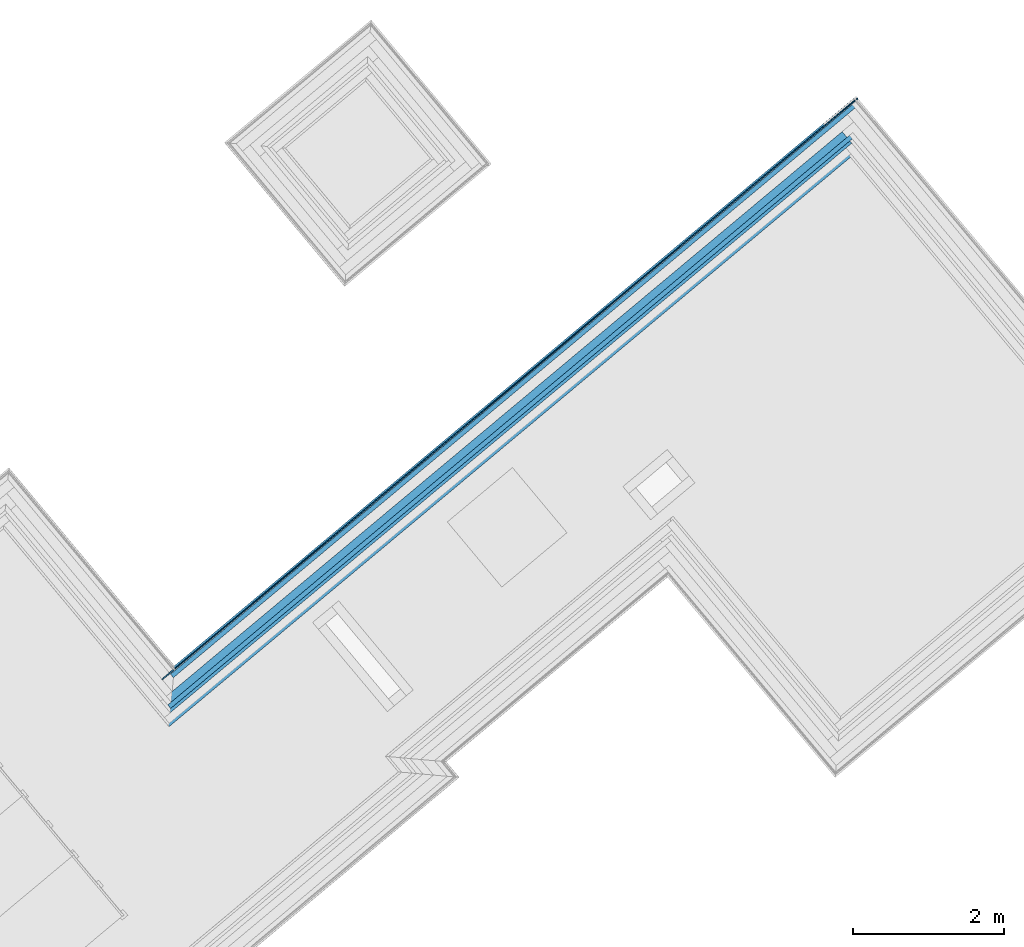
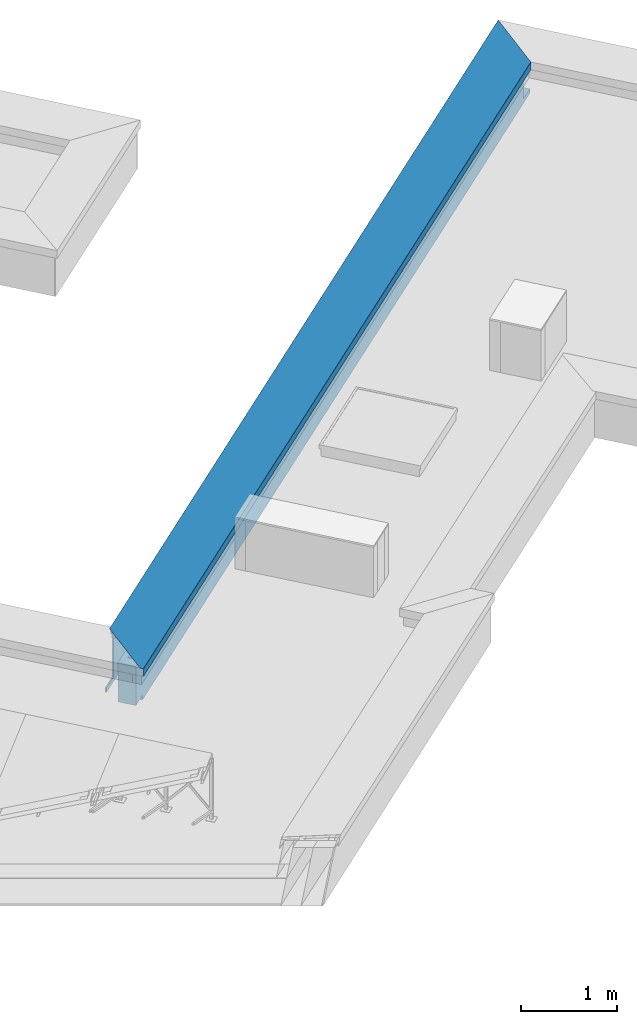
# One storey, part 6 of 13: 5 building element parts, 1 element without a shape of its own.
"""IFC4 building model written with IfcOpenShell, lengths in metres."""

import ifcopenshell
import ifcopenshell.guid

model = None  # the IFC model being written
_history = None  # IfcOwnerHistory: only IFC2X3 demands one
_inside = {}  # id of a spatial element -> (the spatial element, [elements in it])
_under = {}  # id of a project, library or spatial element -> (it, [spatial elements below it])
_declared = {}  # id of a project -> (the project, [libraries it declares])
_typed = {}  # id of a type object -> (the type object, [elements of that type])
_made_of = {}  # id of a material, layer set ... -> (it, [elements and type objects made of it])


def new_model(schema):
    """Start an empty IFC model of exactly this schema.

    Asked for "IFC4X3", IfcOpenShell would pick the latest addendum, in which some entities
    have other attributes; the version numbers below select the first issue.
    IFC2X3 requires an IfcOwnerHistory on every rooted entity: one is made here for all.
    """
    global model, _history
    if schema == "IFC4X3":
        model = ifcopenshell.file(schema_version=(4, 3, 0, 0))
    else:
        model = ifcopenshell.file(schema=schema)
    _inside.clear()
    _under.clear()
    _declared.clear()
    _typed.clear()
    _made_of.clear()
    _history = None
    if model.schema == "IFC2X3":
        org = make("IfcOrganization", Name="unknown")
        user = make(
            "IfcPersonAndOrganization",
            ThePerson=make("IfcPerson", FamilyName="unknown"),
            TheOrganization=org,
        )
        app = make(
            "IfcApplication",
            ApplicationDeveloper=org,
            Version="unknown",
            ApplicationFullName="unknown",
            ApplicationIdentifier="unknown",
        )
        _history = make(
            "IfcOwnerHistory",
            OwningUser=user,
            OwningApplication=app,
            ChangeAction="ADDED",
            CreationDate=0,
        )
    return model


def make(cls, **values):
    """One entity of the class cls with the attributes given. An attribute that is None is left unset."""
    return model.create_entity(
        cls, **{name: value for name, value in values.items() if value is not None}
    )


def entity(cls, *values):
    """Any entity or typed value of the class cls, its attributes in the order of the schema. None: left unset."""
    e = model.create_entity(cls)
    for i, value in enumerate(values):
        if value is not None:
            e[i] = value
    return e


def rooted(cls, **values):
    """An entity with a GlobalId (a new one), such as an element, a storey or a relation."""
    return make(cls, GlobalId=ifcopenshell.guid.new(), OwnerHistory=_history, **values)


def si_unit(unit_type, name, prefix=None):
    """IfcSIUnit, for example si_unit("LENGTHUNIT", "METRE", prefix="MILLI")."""
    return make("IfcSIUnit", UnitType=unit_type, Prefix=prefix, Name=name)


def converted_unit(unit_type, name, factor, base, dimensions=None, offset=None):
    """IfcConversionBasedUnit, such as the inch: factor (a typed value) times the base unit."""
    return make(
        "IfcConversionBasedUnit"
        if offset is None
        else "IfcConversionBasedUnitWithOffset",
        ConversionOffset=offset,
        Dimensions=None
        if dimensions is None
        else entity("IfcDimensionalExponents", *dimensions),
        UnitType=unit_type,
        Name=name,
        ConversionFactor=make(
            "IfcMeasureWithUnit", ValueComponent=factor, UnitComponent=base
        ),
    )


def derived_unit(unit_type, elements):
    """IfcDerivedUnit: a product of units, each with its exponent."""
    return make(
        "IfcDerivedUnit",
        Elements=[
            make("IfcDerivedUnitElement", Unit=unit, Exponent=power)
            for unit, power in elements
        ],
        UnitType=unit_type,
    )


def assignment(units):
    """IfcUnitAssignment: the units of a project."""
    return None if units is None else make("IfcUnitAssignment", Units=units)


def point(xyz):
    """IfcCartesianPoint."""
    return None if xyz is None else make("IfcCartesianPoint", Coordinates=xyz)


def direction(xyz):
    """IfcDirection."""
    return None if xyz is None else make("IfcDirection", DirectionRatios=xyz)


def frame(location, z_axis=None, x_axis=None):
    """IfcAxis2Placement3D, a coordinate frame: its origin and axes. An axis left out is left unset."""
    return make(
        "IfcAxis2Placement3D",
        Location=point(location),
        Axis=direction(z_axis),
        RefDirection=direction(x_axis),
    )


def origin_with_axes():
    """The frame at (0, 0, 0) with the z axis (0, 0, 1) and the x axis (1, 0, 0) written out."""
    return frame((0.0, 0.0, 0.0), z_axis=(0.0, 0.0, 1.0), x_axis=(1.0, 0.0, 0.0))


def place(relative_to, where):
    """IfcLocalPlacement: puts the frame where relative to a parent placement (None: the world)."""
    return make(
        "IfcLocalPlacement", PlacementRelTo=relative_to, RelativePlacement=where
    )


def context(
    kind, dimensions, precision=None, world=None, true_north=None, identifier=None
):
    """IfcGeometricRepresentationContext, for example the 3D "Model" context."""
    return make(
        "IfcGeometricRepresentationContext",
        ContextIdentifier=identifier,
        ContextType=kind,
        CoordinateSpaceDimension=dimensions,
        Precision=precision,
        WorldCoordinateSystem=world,
        TrueNorth=true_north,
    )


def subcontext(parent, identifier, kind, view, scale=None):
    """IfcGeometricRepresentationSubContext, for example "Body" below "Model"."""
    return make(
        "IfcGeometricRepresentationSubContext",
        ContextIdentifier=identifier,
        ContextType=kind,
        ParentContext=parent,
        TargetScale=scale,
        TargetView=view,
    )


def project(units=None, contexts=None):
    """IfcProject with its units and contexts."""
    return rooted(
        "IfcProject",
        Name="project",
        RepresentationContexts=contexts,
        UnitsInContext=assignment(units),
    )


def spatial(cls, under=None, at=None, **own):
    """A site, building, storey or space (cls), placed at a placement, below another one or the project."""
    s = rooted(cls, ObjectPlacement=at, **own)
    if under is not None:
        _under.setdefault(under.id(), (under, []))[1].append(s)
    return s


def point_list(points):
    """IfcCartesianPointList2D or 3D."""
    cls = (
        "IfcCartesianPointList2D" if len(points[0]) == 2 else "IfcCartesianPointList3D"
    )
    return make(cls, CoordList=points)


def polygons(points, faces, closed=None, point_numbers=None):
    """IfcPolygonalFaceSet: a face is its outer loop, then its inner loops; points numbered from 1."""
    made = []
    for loops in faces:
        if len(loops) == 1:
            made.append(make("IfcIndexedPolygonalFace", CoordIndex=loops[0]))
        else:
            made.append(
                make(
                    "IfcIndexedPolygonalFaceWithVoids",
                    CoordIndex=loops[0],
                    InnerCoordIndices=loops[1:],
                )
            )
    return make(
        "IfcPolygonalFaceSet",
        Coordinates=point_list(points),
        Closed=closed,
        Faces=made,
        PnIndex=point_numbers,
    )


def shape(context_of_items, identifier, shape_type, items):
    """IfcShapeRepresentation: the items that make up one representation, for example the "Body"."""
    return make(
        "IfcShapeRepresentation",
        ContextOfItems=context_of_items,
        RepresentationIdentifier=identifier,
        RepresentationType=shape_type,
        Items=items,
    )


def material(Name=None, Category=None):
    """IfcMaterial."""
    return make("IfcMaterial", Name=Name, Category=Category)


def made_of(thing, what):
    """Note that an element or type object is made of a material, layer set ...; save() writes the relation."""
    if what is not None:
        _made_of.setdefault(what.id(), (what, []))[1].append(thing)
    return thing


def type_object(cls, material=None, **own):
    """A type object (cls), such as IfcWallType, which elements share."""
    return made_of(rooted(cls, **own), material)


def element(
    cls,
    number,
    at=None,
    inside=None,
    cuts=None,
    type_object=None,
    material=None,
    context=None,
    identifier="Body",
    shape_type=None,
    held_by="IfcProductDefinitionShape",
    body=None,
    shapes=None,
    **own,
):
    """One element of the class cls, such as IfcWall. Its Tag is "e" and its number.

    at: its placement. inside: the storey or other place that contains it. cuts: it is an
    opening in that element (IfcRelVoidsElement). A single representation is given by context,
    identifier, shape_type and body (its items); several are given by shapes. held_by: the class
    of the entity that holds the representations. save() writes the other relations.
    """
    e = rooted(cls, Tag="e%d" % number, ObjectPlacement=at, **own)
    if body is not None:
        shapes = [shape(context, identifier, shape_type, body)]
    if shapes is not None:
        e.Representation = make(held_by, Representations=shapes)
    if inside is not None:
        _inside.setdefault(inside.id(), (inside, []))[1].append(e)
    if cuts is not None:
        rooted(
            "IfcRelVoidsElement", RelatingBuildingElement=cuts, RelatedOpeningElement=e
        )
    if type_object is not None:
        _typed.setdefault(type_object.id(), (type_object, []))[1].append(e)
    return made_of(e, material)


def aggregate(whole, parts):
    """IfcRelAggregates: a whole, such as a stair, and the parts it consists of."""
    return rooted("IfcRelAggregates", RelatingObject=whole, RelatedObjects=parts)


def save(model, path):
    """Write the relations noted so far, then the file.

    IfcRelAggregates (storeys below a building ...), IfcRelContainedInSpatialStructure (elements
    in a storey), IfcRelDefinesByType, IfcRelAssociatesMaterial and IfcRelDeclares: one each for
    every whole, place, type object, material and project.
    """
    for whole, parts in _under.values():
        aggregate(whole, parts)
    for where, things in _inside.values():
        rooted(
            "IfcRelContainedInSpatialStructure",
            RelatedElements=things,
            RelatingStructure=where,
        )
    for kind, things in _typed.values():
        rooted("IfcRelDefinesByType", RelatedObjects=things, RelatingType=kind)
    for what, things in _made_of.values():
        rooted("IfcRelAssociatesMaterial", RelatedObjects=things, RelatingMaterial=what)
    for by, libraries in _declared.values():
        rooted("IfcRelDeclares", RelatingContext=by, RelatedDefinitions=libraries)
    model.write(path)


model = new_model("IFC4")

# Units and contexts
model_context = context("Model", 3, precision=1e-05, world=origin_with_axes(), true_north=direction((0.0, 1.0)))
body_context = subcontext(model_context, "Body", "Model", "MODEL_VIEW")
ifc_project = project(units=[si_unit("LENGTHUNIT", "METRE"), si_unit("AREAUNIT", "SQUARE_METRE"), si_unit("VOLUMEUNIT", "CUBIC_METRE"), converted_unit("PLANEANGLEUNIT", "DEGREE", entity("IfcPlaneAngleMeasure", 0.0174532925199), si_unit("PLANEANGLEUNIT", "RADIAN"), dimensions=[0, 0, 0, 0, 0, 0, 0]), converted_unit("TIMEUNIT", "Year", entity("IfcTimeMeasure", 31556926.0), si_unit("TIMEUNIT", "SECOND"), dimensions=[0, 0, 1, 0, 0, 0, 0]), si_unit("MASSUNIT", "GRAM", prefix="KILO"), si_unit("THERMODYNAMICTEMPERATUREUNIT", "DEGREE_CELSIUS"), si_unit("LUMINOUSINTENSITYUNIT", "LUMEN"), si_unit("ENERGYUNIT", "JOULE", prefix="MEGA"), derived_unit("THERMALCONDUCTANCEUNIT", [(si_unit("POWERUNIT", "WATT"), 1), (si_unit("LENGTHUNIT", "METRE"), -1), (si_unit("THERMODYNAMICTEMPERATUREUNIT", "KELVIN"), -1)]), derived_unit("SPECIFICHEATCAPACITYUNIT", [(si_unit("ENERGYUNIT", "JOULE"), 1), (si_unit("MASSUNIT", "GRAM", prefix="KILO"), -1), (si_unit("THERMODYNAMICTEMPERATUREUNIT", "KELVIN"), -1)]), derived_unit("MASSDENSITYUNIT", [(si_unit("MASSUNIT", "GRAM", prefix="KILO"), 1), (si_unit("VOLUMEUNIT", "CUBIC_METRE"), -1)])], contexts=[model_context])

# Site, building, storey
site_placement = place(None, frame((-0.00153261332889, -0.00661245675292, 0.0), z_axis=(0.0, 0.0, 1.0), x_axis=(1.0, 0.0, 0.0)))
site = spatial("IfcSite", under=ifc_project, at=site_placement, Name="Gelände", CompositionType="ELEMENT")
building_placement = place(site_placement, origin_with_axes())
building = spatial("IfcBuilding", under=site, at=building_placement, Name="Gebäude", CompositionType="ELEMENT")
storey_placement = place(building_placement, frame((0.0, 0.0, 11.84), z_axis=(0.0, 0.0, 1.0), x_axis=(1.0, 0.0, 0.0)))
storey = spatial("IfcBuildingStorey", under=building, at=storey_placement, Name="DA", CompositionType="ELEMENT", Elevation=11.84)

# Wall, building element parts
wall_type = type_object("IfcWallType", Name="Bauteil - Attika Stehfalz 574 x 670", PredefinedType="NOTDEFINED")
wall_placement = place(storey_placement, frame((-0.976428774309, 18.8021580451, 0.0), z_axis=(0.0, 0.0, 1.0), x_axis=(0.767365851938, 0.641209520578, 0.0)))
wall = element("IfcWall", 1, at=wall_placement, inside=storey, type_object=wall_type, Name="Wand-004", PredefinedType="NOTDEFINED")
ifc_material_1 = material(Name="Stehfalz")
building_element_part_1_placement = place(wall_placement, origin_with_axes())
building_element_part_1 = element("IfcBuildingElementPart", 2, at=building_element_part_1_placement, material=ifc_material_1, Name="Stehfalz", PredefinedType="NOTDEFINED", context=body_context, shape_type="Tessellation", body=[
    polygons([(0.0, 0.199999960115, -2.38708075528e-09), (0.0, 0.214999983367, -2.38708075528e-09), (0.0, 0.214999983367, -0.06), (0.0, 0.199999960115, -0.06), (0.19999996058, 0.214999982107, 0.0), (0.19999996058, 0.199999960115, 0.0), (5.43008096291, 0.214999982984, -0.06), (0.214999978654, 0.214999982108, 0.0), (0.214999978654, 0.21499998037, 0.235000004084), (0.214999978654, 0.214999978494, 0.488695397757), (0.214999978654, 0.214999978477, 0.491006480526), (0.214999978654, 0.214999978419, 0.498822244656), (0.214999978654, 0.214999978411, 0.5), (0.214999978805, 0.214999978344, 0.509050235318), (0.214999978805, 0.214999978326, 0.51136132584), (0.214999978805, 0.214999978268, 0.519224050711), (0.214999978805, 0.214999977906, 0.55999999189), (12.002251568, 0.214999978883, 0.55999999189), (12.0022489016, 0.214999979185, 0.519224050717), (11.9943856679, 0.214999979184, 0.51922405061), (11.9934753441, 0.214999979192, 0.518219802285), (12.000333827, 0.214999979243, 0.511361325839), (12.0026449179, 0.214999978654, 0.509050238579), (11.9771019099, 0.214999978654, 0.509050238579), (11.9771019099, 0.214999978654, 0.50000001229), (11.962101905, 0.214999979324, 0.5), (11.962101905, 0.214999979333, 0.498822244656), (11.962101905, 0.214999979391, 0.491006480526), (11.962101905, 0.214999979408, 0.488695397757), (11.962101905, 0.214999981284, 0.235000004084), (11.962101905, 0.214999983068, 0.0), (11.7621019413, 0.214999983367, -2.38708075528e-09), (11.7621019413, 0.214999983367, -0.06), (7.69580420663, 0.214999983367, -0.06), (7.69580420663, 0.214999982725, -0.00130460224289), (7.69580420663, 0.214999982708, 0.00100648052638), (7.69580420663, 0.214999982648, 0.00882224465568), (7.69580420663, 0.214999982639, 0.01), (7.69580420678, 0.214999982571, 0.0190502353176), (7.72134721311, 0.214999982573, 0.0190502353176), (7.72230448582, 0.214999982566, 0.0200075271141), (7.722304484, 0.214999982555, 0.0213613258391), (7.722304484, 0.214999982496, 0.0292240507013), (7.722304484, 0.214999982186, 0.0699999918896), (7.722304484, 0.214999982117, 0.0779479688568), (7.722304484, 0.214999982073, 0.0838806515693), (7.722304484, 0.214999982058, 0.0859797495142), (7.722304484, 0.214999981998, 0.0940158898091), (7.722304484, 0.214999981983, 0.0961062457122), (7.722304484, 0.214999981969, 0.0979374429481), (7.722304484, 0.214999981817, 0.118570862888), (7.722304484, 0.214999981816, 0.118602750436), (7.722304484, 0.214999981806, 0.120006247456), (7.68353486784, 0.214999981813, 0.11860275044), (7.68265402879, 0.214999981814, 0.118570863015), (7.14875228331, 0.214999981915, 0.0992431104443), (7.14875228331, 0.214999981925, 0.0979374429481), (7.14875228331, 0.214999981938, 0.0961062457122), (7.14875228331, 0.214999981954, 0.0940158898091), (7.14875228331, 0.214999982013, 0.0859797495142), (7.14875228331, 0.214999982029, 0.0838806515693), (7.14875228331, 0.214999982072, 0.0779479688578), (7.14875228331, 0.214999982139, 0.0699999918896), (7.14875228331, 0.214999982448, 0.0292240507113), (7.14875228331, 0.214999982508, 0.0213613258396), (7.14875228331, 0.214999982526, 0.0190502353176), (7.14875228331, 0.214999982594, 0.00999999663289), (7.14875228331, 0.214999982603, 0.00882224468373), (7.14875228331, 0.214999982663, 0.00100648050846), (7.14875228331, 0.214999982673, -0.00034732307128), (7.14970957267, 0.21499998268, -0.00130459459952), (7.18080417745, 0.214999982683, -0.00130460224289), (7.18080417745, 0.214999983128, -0.06), (5.63008098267, 0.214999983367, -0.06), (5.63008098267, 0.214999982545, 0.0), (5.43008096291, 0.214999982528, 0.0), (5.43007429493, 0.199999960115, -0.06), (5.43007429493, 0.199999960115, 0.0), (5.63007431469, 0.199999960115, 0.0), (5.63007431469, 0.199999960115, -0.06), (7.18079765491, 0.199999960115, -0.06), (7.18079765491, 0.199999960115, -0.00130460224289), (7.14970305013, 0.199999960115, -0.00130459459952), (7.14874576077, 0.199999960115, -0.00034732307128), (7.14874576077, 0.199999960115, 0.00100648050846), (7.14874576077, 0.199999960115, 0.00882224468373), (7.14874576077, 0.199999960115, 0.00999999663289), (7.14874576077, 0.199999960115, 0.0190502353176), (7.14874576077, 0.199999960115, 0.0213613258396), (7.14874576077, 0.199999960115, 0.0292240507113), (7.14874576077, 0.199999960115, 0.0699999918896), (7.14874576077, 0.199999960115, 0.0779479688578), (7.14874576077, 0.199999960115, 0.0838806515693), (7.14874576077, 0.199999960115, 0.0859797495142), (7.14874576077, 0.199999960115, 0.0940158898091), (7.14874576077, 0.199999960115, 0.0961062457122), (7.14874576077, 0.199999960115, 0.0979374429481), (7.14874576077, 0.199999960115, 0.0992431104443), (7.68264750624, 0.199999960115, 0.118570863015), (7.68352834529, 0.199999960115, 0.11860275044), (7.72229796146, 0.199999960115, 0.120006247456), (7.72229796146, 0.199999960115, 0.118602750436), (7.72229796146, 0.199999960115, 0.118570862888), (7.72229796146, 0.199999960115, 0.0979374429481), (7.72229796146, 0.199999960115, 0.0961062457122), (7.72229796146, 0.199999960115, 0.0940158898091), (7.72229796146, 0.199999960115, 0.0859797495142), (7.72229796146, 0.199999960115, 0.0838806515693), (7.72229796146, 0.199999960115, 0.0779479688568), (7.72229796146, 0.199999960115, 0.0699999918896), (7.72229796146, 0.199999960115, 0.0292240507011), (7.72229796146, 0.199999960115, 0.0213613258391), (7.72229796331, 0.199999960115, 0.0200075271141), (7.72134069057, 0.199999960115, 0.0190502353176), (7.69579768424, 0.199999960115, 0.0190502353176), (7.69579768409, 0.199999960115, 0.01), (7.69579768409, 0.199999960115, 0.00882224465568), (7.69579768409, 0.199999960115, 0.00100648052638), (7.69579768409, 0.199999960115, -0.00130460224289), (7.69579768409, 0.199999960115, -0.06), (11.7621019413, 0.199999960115, -0.06), (11.7621019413, 0.199999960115, -2.38708075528e-09), (11.962101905, 0.199999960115, 0.0), (11.962101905, 0.199999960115, 0.235000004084), (11.962101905, 0.199999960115, 0.488695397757), (11.962101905, 0.199999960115, 0.491006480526), (11.962101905, 0.199999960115, 0.498822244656), (11.962101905, 0.199999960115, 0.5), (11.9771019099, 0.199999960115, 0.50000001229), (11.9771019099, 0.199999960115, 0.509050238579), (12.0026449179, 0.199999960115, 0.509050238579), (12.000333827, 0.199999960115, 0.511361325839), (11.9934753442, 0.199999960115, 0.518219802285), (11.9943856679, 0.199999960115, 0.51922405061), (12.0022489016, 0.199999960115, 0.519224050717), (12.002251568, 0.199999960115, 0.55999999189), (0.214999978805, 0.199999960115, 0.55999999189), (0.214999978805, 0.199999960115, 0.519224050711), (0.214999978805, 0.199999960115, 0.51136132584), (0.214999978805, 0.199999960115, 0.509050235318), (0.214999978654, 0.199999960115, 0.5), (0.214999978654, 0.199999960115, 0.498822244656), (0.214999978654, 0.199999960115, 0.491006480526), (0.214999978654, 0.199999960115, 0.488695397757), (0.214999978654, 0.199999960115, 0.235000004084), (0.214999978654, 0.199999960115, 0.0)], [[[1, 2, 3, 4]], [[5, 2, 1, 6]], [[7, 3, 2, 5, 8, 9, 10, 11, 12, 13, 14, 15, 16, 17, 18, 19, 20, 21, 22, 23, 24, 25, 26, 27, 28, 29, 30, 31, 32, 33, 34, 35, 36, 37, 38, 39, 40, 41, 42, 43, 44, 45, 46, 47, 48, 49, 50, 51, 52, 53, 54, 55, 56, 57, 58, 59, 60, 61, 62, 63, 64, 65, 66, 67, 68, 69, 70, 71, 72, 73, 74, 75, 76]], [[77, 4, 3, 7]], [[6, 1, 4, 77, 78, 79, 80, 81, 82, 83, 84, 85, 86, 87, 88, 89, 90, 91, 92, 93, 94, 95, 96, 97, 98, 99, 100, 101, 102, 103, 104, 105, 106, 107, 108, 109, 110, 111, 112, 113, 114, 115, 116, 117, 118, 119, 120, 121, 122, 123, 124, 125, 126, 127, 128, 129, 130, 131, 132, 133, 134, 135, 136, 137, 138, 139, 140, 141, 142, 143, 144, 145, 146]], [[5, 6, 146, 8]], [[8, 146, 145, 9]], [[9, 145, 144, 10]], [[10, 144, 143, 11]], [[11, 143, 142, 12]], [[12, 142, 141, 13]], [[13, 141, 140, 14]], [[14, 140, 139, 15]], [[15, 139, 138, 16]], [[16, 138, 137, 17]], [[18, 17, 137, 136]], [[136, 135, 19, 18]], [[134, 20, 19, 135]], [[20, 134, 133, 21]], [[21, 133, 132, 22]], [[131, 23, 22, 132]], [[131, 130, 24, 23]], [[130, 129, 25, 24]], [[129, 128, 26, 25]], [[128, 127, 27, 26]], [[27, 127, 126, 28]], [[28, 126, 125, 29]], [[29, 125, 124, 30]], [[124, 123, 31, 30]], [[123, 122, 32, 31]], [[32, 122, 121, 33]], [[121, 120, 34, 33]], [[35, 34, 120, 119]], [[36, 35, 119, 118]], [[37, 36, 118, 117]], [[117, 116, 38, 37]], [[39, 38, 116, 115]], [[40, 39, 115, 114]], [[40, 114, 113, 41]], [[41, 113, 112, 42]], [[42, 112, 111, 43]], [[43, 111, 110, 44]], [[109, 45, 44, 110]], [[108, 46, 45, 109]], [[107, 47, 46, 108]], [[106, 48, 47, 107]], [[105, 49, 48, 106]], [[104, 50, 49, 105]], [[103, 51, 50, 104]], [[102, 52, 51, 103]], [[101, 53, 52, 102]], [[101, 100, 54, 53]], [[100, 99, 55, 54]], [[99, 98, 56, 55]], [[97, 57, 56, 98]], [[96, 58, 57, 97]], [[95, 59, 58, 96]], [[94, 60, 59, 95]], [[93, 61, 60, 94]], [[92, 62, 61, 93]], [[91, 63, 62, 92]], [[90, 64, 63, 91]], [[89, 65, 64, 90]], [[88, 66, 65, 89]], [[87, 67, 66, 88]], [[86, 68, 67, 87]], [[85, 69, 68, 86]], [[84, 70, 69, 85]], [[71, 70, 84, 83]], [[72, 71, 83, 82]], [[81, 73, 72, 82]], [[81, 80, 74, 73]], [[79, 75, 74, 80]], [[79, 78, 76, 75]], [[78, 77, 7, 76]]], closed=True),
])
ifc_material_2 = material(Name="Vollholz")
building_element_part_2_placement = place(wall_placement, origin_with_axes())
building_element_part_2 = element("IfcBuildingElementPart", 3, at=building_element_part_2_placement, material=ifc_material_2, Name="Vollholz", PredefinedType="NOTDEFINED", context=body_context, shape_type="Tessellation", body=[
    polygons([(0.130124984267, 0.130124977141, 0.575979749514), (0.130124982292, 0.130124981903, 0.584015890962), (0.130124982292, 0.189996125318, 0.584015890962), (0.130124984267, 0.190039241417, 0.575979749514), (0.130124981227, 0.130124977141, 0.567947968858), (0.130124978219, 0.130124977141, 0.560000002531), (11.8922269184, 0.130124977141, 0.560000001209), (11.8922269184, 0.130124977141, 0.567947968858), (11.8922269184, 0.130124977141, 0.573880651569), (11.8922269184, 0.130124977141, 0.575979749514), (11.8922269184, 0.130124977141, 0.584015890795), (0.130124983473, 0.130124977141, 0.573880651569), (0.18998490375, 0.189984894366, 0.586106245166), (11.9520871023, 0.189984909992, 0.586106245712), (11.8922269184, 0.189996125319, 0.584015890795), (11.8922269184, 0.190039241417, 0.575979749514), (11.8922269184, 0.190050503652, 0.573880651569), (11.8922269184, 0.190082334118, 0.567947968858), (11.8922269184, 0.190124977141, 0.560000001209), (0.130124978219, 0.190124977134, 0.560000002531), (0.130124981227, 0.190082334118, 0.567947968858), (0.130124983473, 0.190050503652, 0.573880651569)], [[[1, 2, 3, 4]], [[5, 6, 7, 8, 9, 10, 11, 2, 1, 12]], [[3, 2, 13]], [[4, 3, 13, 14, 15, 16, 17, 18, 19, 20, 21, 22]], [[12, 1, 4, 22]], [[6, 5, 21, 20]], [[6, 20, 19, 7]], [[7, 19, 18, 8]], [[9, 8, 18, 17]], [[10, 9, 17, 16]], [[16, 15, 11, 10]], [[2, 11, 14, 13]], [[5, 12, 22, 21]], [[11, 15, 14]]], closed=True),
])
building_element_part_3_placement = place(wall_placement, origin_with_axes())
building_element_part_3 = element("IfcBuildingElementPart", 4, at=building_element_part_3_placement, material=ifc_material_2, Name="Vollholz", PredefinedType="NOTDEFINED", context=body_context, shape_type="Tessellation", body=[
    polygons([(-0.160110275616, -0.1, 0.573880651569), (-0.0999999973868, -0.1, 0.575979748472), (11.6621019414, -0.1, 0.575979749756), (11.6019917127, -0.1, 0.573880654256), (11.6020388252, -0.1, 0.567947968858), (11.6021019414, -0.1, 0.560000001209), (-0.159999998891, -0.1, 0.560000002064), (-0.160063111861, -0.1, 0.567947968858), (-0.160110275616, -0.160110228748, 0.573880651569), (11.6019917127, -0.160110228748, 0.573880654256), (11.6020388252, -0.160063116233, 0.567947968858), (11.6021019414, -0.16, 0.560000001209), (-0.159999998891, -0.16, 0.560000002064), (-0.160063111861, -0.160063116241, 0.567947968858)], [[[1, 2, 3, 4, 5, 6, 7, 8]], [[9, 2, 1]], [[2, 9, 10, 3]], [[4, 3, 10]], [[4, 10, 11, 5]], [[5, 11, 12, 6]], [[13, 7, 6, 12]], [[14, 8, 7, 13]], [[9, 1, 8, 14]], [[9, 14, 13, 12, 11, 10]]], closed=True),
])
ifc_material_3 = material(Name="Stahlbeton Wand Garage")
building_element_part_4_placement = place(wall_placement, origin_with_axes())
building_element_part_4 = element("IfcBuildingElementPart", 5, at=building_element_part_4_placement, material=ifc_material_3, Name="Stahlbeton Wand Garage", PredefinedType="NOTDEFINED", context=body_context, shape_type="Tessellation", body=[
    polygons([(-0.200000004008, 0.0, 0.499999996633), (-0.200000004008, -0.2, 0.499999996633), (11.5621019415, -0.2, 0.5), (11.5621019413, 0.0, 0.5), (-0.200000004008, -0.20000000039, 0.498822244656), (-0.200000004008, 0.0, 0.498822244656), (-0.200000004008, -0.20000000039, 0.491006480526), (-0.200000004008, -0.20000000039, 0.488695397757), (-0.200000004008, -0.20000000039, 0.235000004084), (11.5621019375, -0.20000000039, 0.235000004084), (11.5621019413, -0.20000000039, 0.488695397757), (11.5621019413, -0.20000000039, 0.491006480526), (11.5621019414, -0.20000000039, 0.498822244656), (11.5621019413, 0.0, 0.498822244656), (11.5621019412, 0.0, 0.491006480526), (11.5621019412, 0.0, 0.488695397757), (11.5621019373, 0.0, 0.235000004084), (11.5621019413, 0.0, 0.0), (11.7621019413, 0.0, 0.0), (11.7621019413, 0.0, -0.06), (0.0, 0.0, -0.06), (0.0, 0.0, -2.38708075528e-09), (-0.200000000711, 0.0, -2.38708075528e-09), (-0.200000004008, 0.0, 0.235000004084), (-0.200000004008, 0.0, 0.488695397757), (-0.200000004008, 0.0, 0.491006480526), (11.5621019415, -0.200000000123, 0.0), (-0.200000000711, -0.200000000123, -2.38708075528e-09), (0.0, -0.200000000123, -2.38708075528e-09), (0.0, -0.200000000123, -0.06), (11.7621019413, -0.200000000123, -0.06), (11.7621019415, -0.200000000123, 0.0)], [[[1, 2, 3, 4]], [[5, 2, 1, 6]], [[2, 5, 7, 8, 9, 10, 11, 12, 13, 3]], [[4, 3, 13, 14]], [[6, 1, 4, 14, 15, 16, 17, 18, 19, 20, 21, 22, 23, 24, 25, 26]], [[5, 6, 26, 7]], [[7, 26, 25, 8]], [[8, 25, 24, 9]], [[27, 10, 9, 28, 29, 30, 31, 32]], [[16, 11, 10, 17]], [[15, 12, 11, 16]], [[14, 13, 12, 15]], [[17, 10, 27, 18]], [[27, 32, 19, 18]], [[19, 32, 31, 20]], [[21, 20, 31, 30]], [[21, 30, 29, 22]], [[22, 29, 28, 23]], [[9, 24, 23, 28]]], closed=True),
])
ifc_material_4 = material(Name="Stahl")
building_element_part_5_placement = place(wall_placement, origin_with_axes())
building_element_part_5 = element("IfcBuildingElementPart", 6, at=building_element_part_5_placement, material=ifc_material_4, Name="Stahl", PredefinedType="NOTDEFINED", context=body_context, shape_type="Tessellation", body=[
    polygons([(-0.332051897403, -0.332051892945, 0.489652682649), (-0.332051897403, -0.330137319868, 0.489652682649), (-0.33109461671, -0.331094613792, 0.488695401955), (-0.332051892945, -0.332051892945, 0.498822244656), (-0.332051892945, -0.330698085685, 0.498822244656), (-0.332051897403, -0.330698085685, 0.491006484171), (-0.332051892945, -0.328783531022, 0.491006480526), (-0.33069808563, -0.328783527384, 0.491006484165), (-0.323792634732, -0.321878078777, 0.497911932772), (11.4383093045, -0.321878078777, 0.497911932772), (11.4314038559, -0.328783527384, 0.491006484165), (11.4300500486, -0.328783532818, 0.491006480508), (11.4300500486, -0.330137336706, 0.489652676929), (11.4310073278, -0.331094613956, 0.488695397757), (11.4300500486, -0.332051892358, 0.489652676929), (11.4300500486, -0.332051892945, 0.491006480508), (11.4300500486, -0.332051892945, 0.498822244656), (11.4300500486, -0.332051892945, 0.499999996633), (11.4300500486, -0.332051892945, 0.509050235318), (11.4300500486, -0.332051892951, 0.511361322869), (11.4300500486, -0.33205189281, 0.519224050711), (11.4300500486, -0.332051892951, 0.559999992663), (11.4300500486, -0.332051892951, 0.567947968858), (11.4300500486, -0.332051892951, 0.573880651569), (11.4300500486, -0.332051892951, 0.575979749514), (11.4300500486, -0.332051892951, 0.584015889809), (11.4300500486, -0.332051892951, 0.586106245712), (11.4300500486, -0.332051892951, 0.587937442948), (11.4300500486, -0.332051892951, 0.589243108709), (-0.332051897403, -0.332051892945, 0.589243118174), (-0.332051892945, -0.332051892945, 0.499999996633), (-0.330698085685, -0.332051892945, 0.499999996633), (-0.330698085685, -0.332051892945, 0.498822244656), (-0.330698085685, -0.330698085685, 0.498822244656), (-0.33069808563, -0.330698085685, 0.491006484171), (-0.330698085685, -0.330698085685, 0.499999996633), (-0.332051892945, -0.330698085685, 0.499999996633), (-0.332051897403, -0.330698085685, 0.587937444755), (11.4300500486, -0.330698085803, 0.587937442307), (11.4300500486, -0.330698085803, 0.586106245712), (11.4300500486, -0.330698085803, 0.584015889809), (11.4300500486, -0.330698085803, 0.575979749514), (11.4300500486, -0.330698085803, 0.573880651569), (11.4300500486, -0.330698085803, 0.567947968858), (11.4300500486, -0.330698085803, 0.559999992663), (11.4300500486, -0.330698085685, 0.519224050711), (11.4300500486, -0.330698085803, 0.511361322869), (11.4300500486, -0.330698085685, 0.509050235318), (11.4300500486, -0.330698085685, 0.499999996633), (11.4300500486, -0.330698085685, 0.498822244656), (11.4300500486, -0.330698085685, 0.49100648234), (-0.322882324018, -0.32288233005, 0.498822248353), (11.4392196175, -0.32288233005, 0.498822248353), (11.4314038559, -0.330698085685, 0.491006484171), (11.4300500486, -0.294630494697, 0.589243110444), (0.241500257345, 0.241500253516, 0.610006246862), (11.9639517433, 0.201849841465, 0.608570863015), (11.9648325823, 0.202730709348, 0.608602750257), (12.0036021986, 0.241500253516, 0.610006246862), (-0.332051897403, -0.29463035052, 0.589243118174), (0.201849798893, 0.239276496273, 0.608570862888), (11.9639517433, 0.239276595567, 0.608570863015), (0.20273064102, 0.241500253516, 0.608602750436), (0.202730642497, 0.240152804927, 0.608602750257), (11.9648325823, 0.240152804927, 0.608602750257), (11.9648325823, 0.241500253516, 0.608602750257), (0.239585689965, 0.241500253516, 0.510007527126), (0.23823188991, 0.241500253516, 0.51136132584), (0.240146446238, 0.241500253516, 0.51136132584), (0.240146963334, 0.241500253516, 0.51922405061), (0.240149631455, 0.241500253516, 0.559999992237), (0.240150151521, 0.241500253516, 0.567947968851), (0.240150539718, 0.241500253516, 0.573880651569), (0.24015067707, 0.241500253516, 0.575979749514), (0.240151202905, 0.241500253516, 0.584015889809), (0.240151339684, 0.241500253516, 0.586106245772), (0.240151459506, 0.241500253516, 0.587937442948), (0.240152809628, 0.241500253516, 0.608570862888), (0.240152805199, 0.241500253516, 0.608602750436), (12.0022547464, 0.241500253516, 0.608602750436), (12.002254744, 0.241500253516, 0.608570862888), (12.0022533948, 0.241500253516, 0.587937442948), (12.0022532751, 0.241500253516, 0.586106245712), (12.0022531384, 0.241500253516, 0.584015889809), (12.0022526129, 0.241500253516, 0.575979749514), (12.0022524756, 0.241500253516, 0.573880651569), (12.0022520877, 0.241500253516, 0.567947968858), (12.002251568, 0.241500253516, 0.55999999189), (12.0022489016, 0.241500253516, 0.519224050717), (12.0022483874, 0.241500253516, 0.51136132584), (12.000333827, 0.241500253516, 0.511361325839), (12.001687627, 0.241500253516, 0.510007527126), (0.240152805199, 0.240152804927, 0.608602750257), (12.0022547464, 0.240152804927, 0.608602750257), (0.238231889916, 0.240146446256, 0.51136132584), (0.240542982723, 0.240542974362, 0.509050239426), (0.23823188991, 0.238231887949, 0.51136132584), (0.240146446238, 0.240146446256, 0.51136132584), (0.240146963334, 0.240146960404, 0.51922405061), (0.240149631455, 0.240149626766, 0.559999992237), (0.240150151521, 0.240150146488, 0.567947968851), (0.240150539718, 0.24015053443, 0.573880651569), (0.24015067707, 0.240150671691, 0.575979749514), (0.240151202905, 0.240151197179, 0.584015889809), (0.240151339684, 0.240151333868, 0.586106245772), (0.240151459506, 0.240151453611, 0.587937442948), (0.240152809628, 0.240152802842, 0.608570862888), (12.002254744, 0.240152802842, 0.608570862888), (12.0022533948, 0.240151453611, 0.587937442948), (12.0022532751, 0.240151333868, 0.586106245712), (12.0022531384, 0.240151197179, 0.584015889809), (12.0022526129, 0.240150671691, 0.575979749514), (12.0022524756, 0.24015053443, 0.573880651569), (12.0022520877, 0.240150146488, 0.567947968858), (12.002251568, 0.240149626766, 0.55999999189), (12.0022489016, 0.240146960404, 0.519224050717), (12.0022483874, 0.240146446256, 0.51136132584), (12.000333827, 0.240146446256, 0.511361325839), (12.000333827, 0.238231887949, 0.51136132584), (12.0026449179, 0.240542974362, 0.509050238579), (0.231373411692, 0.231373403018, 0.518219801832), (11.9934753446, 0.231373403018, 0.518219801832), (0.231373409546, 0.233287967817, 0.518219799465), (0.232283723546, 0.232283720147, 0.519224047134), (11.9943856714, 0.232283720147, 0.519224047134), (11.9934753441, 0.233287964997, 0.518219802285)], [[[1, 2, 3]], [[2, 1, 4, 5, 6, 7]], [[3, 2, 7, 8, 9, 10, 11, 12, 13, 14]], [[1, 3, 14, 15]], [[4, 1, 15, 16, 17, 18, 19, 20, 21, 22, 23, 24, 25, 26, 27, 28, 29, 30, 31, 32, 33]], [[5, 4, 33, 34]], [[35, 6, 5, 34, 36, 37, 38, 39, 40, 41, 42, 43, 44, 45, 46, 47, 48, 49, 50, 51]], [[6, 35, 8, 7]], [[8, 35, 52, 9]], [[9, 52, 53, 10]], [[11, 10, 53, 54]], [[54, 51, 12, 11]], [[51, 16, 15, 13, 12]], [[13, 15, 14]], [[16, 51, 50, 17]], [[17, 50, 49, 18]], [[18, 49, 48, 19]], [[19, 48, 47, 20]], [[20, 47, 46, 21]], [[22, 21, 46, 45]], [[23, 22, 45, 44]], [[24, 23, 44, 43]], [[25, 24, 43, 42]], [[26, 25, 42, 41]], [[27, 26, 41, 40]], [[39, 28, 27, 40]], [[28, 39, 55, 29]], [[56, 30, 29, 57, 58, 59]], [[37, 31, 30, 60, 38]], [[31, 37, 36, 32]], [[33, 32, 36, 34]], [[38, 60, 61, 62, 55, 39]], [[52, 35, 51, 54, 53]], [[29, 55, 62, 57]], [[60, 30, 56, 63, 64, 61]], [[57, 62, 65, 58]], [[65, 66, 59, 58]], [[67, 68, 69, 70, 71, 72, 73, 74, 75, 76, 77, 78, 79, 63, 56, 59, 66, 80, 81, 82, 83, 84, 85, 86, 87, 88, 89, 90, 91, 92]], [[61, 64, 93, 65, 62]], [[64, 63, 79, 93]], [[66, 65, 94, 80]], [[95, 68, 67, 96, 97]], [[68, 95, 98, 69]], [[69, 98, 99, 70]], [[99, 100, 71, 70]], [[100, 101, 72, 71]], [[101, 102, 73, 72]], [[102, 103, 74, 73]], [[103, 104, 75, 74]], [[75, 104, 105, 76]], [[77, 76, 105, 106]], [[78, 77, 106, 107]], [[79, 78, 107, 93]], [[94, 108, 81, 80]], [[108, 109, 82, 81]], [[109, 110, 83, 82]], [[110, 111, 84, 83]], [[111, 112, 85, 84]], [[113, 86, 85, 112]], [[87, 86, 113, 114]], [[115, 88, 87, 114]], [[116, 89, 88, 115]], [[90, 89, 116, 117]], [[118, 91, 90, 117]], [[91, 118, 119, 120, 92]], [[96, 67, 92, 120]], [[99, 98, 118, 117, 116, 115, 114, 113, 112, 111, 110, 109, 108, 94, 65, 93, 107, 106, 105, 104, 103, 102, 101, 100]], [[121, 97, 96, 120, 119, 122]], [[95, 97, 121, 123]], [[98, 95, 123, 124, 125, 126, 118]], [[118, 126, 122, 119]], [[124, 121, 122, 125]], [[123, 121, 124]], [[122, 126, 125]]], closed=True),
])
aggregate(wall, [building_element_part_1, building_element_part_2, building_element_part_3, building_element_part_4, building_element_part_5])

save(model, "model.ifc")
